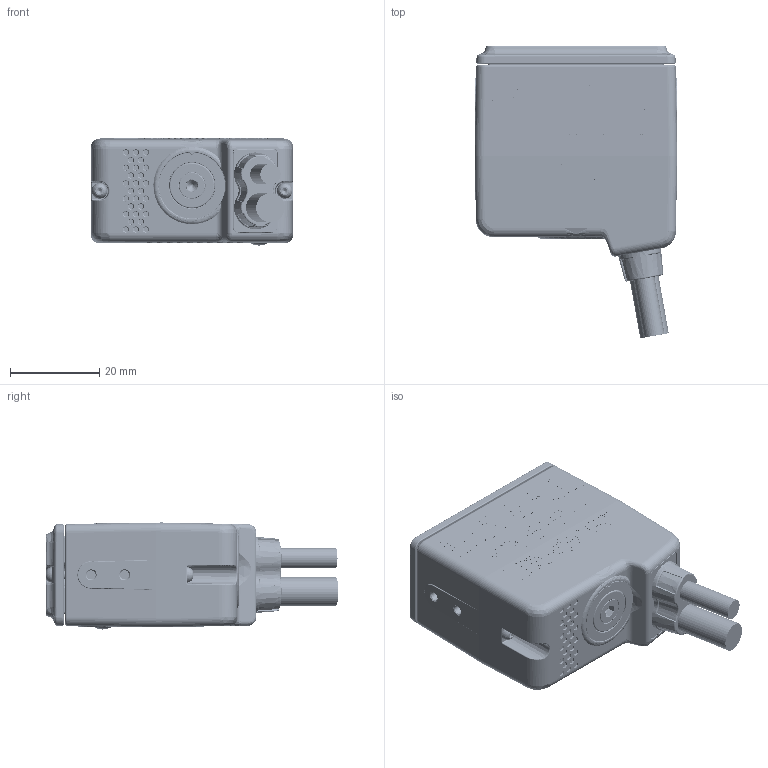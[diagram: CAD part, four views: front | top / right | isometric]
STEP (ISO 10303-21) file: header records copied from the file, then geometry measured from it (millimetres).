
FILE_DESCRIPTION(/* description */ (''),/* implementation_level */ '2;1');
FILE_NAME(/* name */ 'AS001797_01_STP_DSD-0743 (MATRIX 120 ETH ESD).stp',/* time_stamp */ '2016-06-24T16:11:15+02:00',/* author */ (''),/* organization */ (''),/* preprocessor_version */ 'ST-DEVELOPER v16',/* originating_system */ 'SIEMENS PLM Software NX 10.0',/* authorisation */ '');
FILE_SCHEMA (('AP203_CONFIGURATION_CONTROLLED_3D_DESIGN_OF_MECHANICAL_PARTS_AND_ASSEMBLIES_MIM_LF { 1 0 10303 403 2 1 2}'));
Products named in the file (1): fgua253C0DBFa2r4
Bounding box: 45.4 x 65.56 x 24.01 mm (x, y, z)
Volume: 18084.3 mm3; surface area: 23484.1 mm2
Topology: 260 solids, 260 shells, 10250 faces, 23885 edges, 13938 vertices
Faces by surface type: plane 3352, cylinder 3017, bspline 1588, extrusion 984, sphere 886, torus 222, cone 201
Full cylindrical faces by diameter (mm): 1.1 x4, 1.6 x4, 1.95 x4, 2 x6, 2.05 x4, 2.5 x1, 3 x1, 3.2 x1, 3.5 x1, 4.4 x1, 4.5 x2, 4.6 x1, 5.4 x1, 5.9 x2, 6 x1, 6.3 x1, 6.5 x1, 7.3 x1, 10.5 x2
Entity records: 333429 total; most frequent: CARTESIAN_POINT 116994, ORIENTED_EDGE 46440, DIRECTION 41693, EDGE_CURVE 23220, AXIS2_PLACEMENT_3D 15822, VERTEX_POINT 13848, EDGE_LOOP 10790, ADVANCED_FACE 10247
